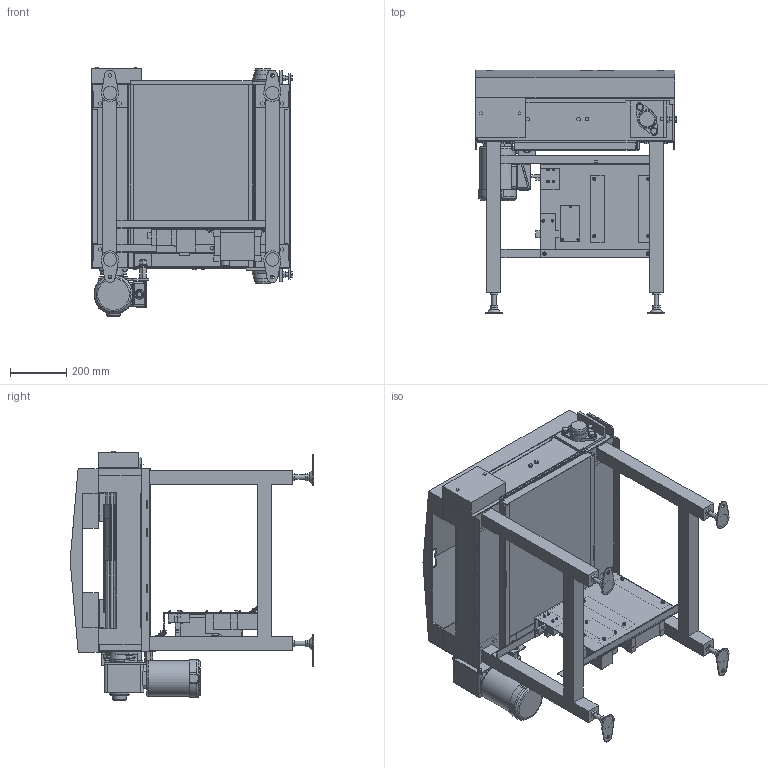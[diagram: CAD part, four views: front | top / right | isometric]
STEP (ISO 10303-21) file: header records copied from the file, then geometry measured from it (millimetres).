
FILE_DESCRIPTION( (''), '2;1');
FILE_NAME ('WEB-SLS-H-340-2-200-200-R-IVH-7.5.stp','2026-08-20T08:43:33',(''),(''),'spGate 21.9.5 (****-****-****-****)','','');
FILE_SCHEMA (('AUTOMOTIVE_DESIGN'));
Length unit declared in the file: millimetre
Products named in the file (81): WEB-SLS-H-340-2-200-200-R-IVH-7.5; TEMP_X_T-prt0; TEMP_X_T-prt1; TEMP_X_T-prt2; TEMP_X_T-prt3; TEMP_X_T-prt4; TEMP_X_T-prt5; TEMP_X_T-prt6; TEMP_X_T-prt7; TEMP_X_T-prt8; TEMP_X_T-prt9; TEMP_X_T-prt10; TEMP_X_T-prt11; TEMP_X_T-prt12; TEMP_X_T-prt13; TEMP_X_T-prt14; TEMP_X_T-prt15; TEMP_X_T-prt16; TEMP_X_T-prt17; TEMP_X_T-prt18; TEMP_X_T-prt19; TEMP_X_T-prt20; TEMP_X_T-prt21; TEMP_X_T-prt22; TEMP_X_T-prt23; TEMP_X_T-prt24; TEMP_X_T-prt25; TEMP_X_T-prt26; TEMP_X_T-prt27; TEMP_X_T-prt28; TEMP_X_T-prt29; TEMP_X_T-prt30; TEMP_X_T-prt31; TEMP_X_T-prt32; TEMP_X_T-prt33; TEMP_X_T-prt34; TEMP_X_T-prt35; TEMP_X_T-prt36; TEMP_X_T-prt37; TEMP_X_T-prt38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
Assembly tree (80 placements, depth 2):
  WEB-SLS-H-340-2-200-200-R-IVH-7.5
    TEMP_X_T-prt0
    TEMP_X_T-prt1
    TEMP_X_T-prt2
    TEMP_X_T-prt3
    TEMP_X_T-prt4
    TEMP_X_T-prt5
    TEMP_X_T-prt6
    TEMP_X_T-prt7
    TEMP_X_T-prt8
    TEMP_X_T-prt9
    TEMP_X_T-prt10
    TEMP_X_T-prt11
    TEMP_X_T-prt12
    TEMP_X_T-prt13
    TEMP_X_T-prt14
    TEMP_X_T-prt15
    TEMP_X_T-prt16
    TEMP_X_T-prt17
    TEMP_X_T-prt18
    TEMP_X_T-prt19
    TEMP_X_T-prt20
    TEMP_X_T-prt21
    TEMP_X_T-prt22
    TEMP_X_T-prt23
    TEMP_X_T-prt24
    TEMP_X_T-prt25
    TEMP_X_T-prt26
    TEMP_X_T-prt27
    TEMP_X_T-prt28
    TEMP_X_T-prt29
    TEMP_X_T-prt30
    TEMP_X_T-prt31
    TEMP_X_T-prt32
    TEMP_X_T-prt33
    TEMP_X_T-prt34
    TEMP_X_T-prt35
    TEMP_X_T-prt36
    TEMP_X_T-prt37
    TEMP_X_T-prt38
    TEMP_X_T-prt39
    TEMP_X_T-prt40
    TEMP_X_T-prt41
    TEMP_X_T-prt42
    TEMP_X_T-prt43
    TEMP_X_T-prt44
    TEMP_X_T-prt45
    TEMP_X_T-prt46
    TEMP_X_T-prt47
    TEMP_X_T-prt48
    TEMP_X_T-prt49
    TEMP_X_T-prt50
    TEMP_X_T-prt51
    TEMP_X_T-prt52
    TEMP_X_T-prt53
    TEMP_X_T-prt54
    TEMP_X_T-prt55
    TEMP_X_T-prt56
    TEMP_X_T-prt57
    TEMP_X_T-prt58
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Bounding box: 716 x 870.6 x 889.5 mm (x, y, z)
Volume: 42544034.9 mm3; surface area: 7849815.9 mm2
Topology: 80 solids, 80 shells, 2474 faces, 6335 edges, 4169 vertices
Faces by surface type: plane 1892, cylinder 463, bspline 115, sphere 4
Full cylindrical faces by diameter (mm): 4 x14, 4.15 x1, 5 x4, 6 x14, 8 x6, 8.376 x4, 8.5 x6, 9 x4, 9.2 x5, 10.5 x4, 11 x4, 11.8 x4, 12 x2, 12.2 x18, 12.5 x21, 13 x8, 14 x8, 15.4 x1, 16 x16, 18 x1, 20 x1, 21 x6, 22.2 x1, 23 x1, 24 x1, 25 x1, 28 x1, 30 x1, 30.5 x1, 34 x1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
Entity records: 130670 total; most frequent: CARTESIAN_POINT 16895, ORIENTED_EDGE 12662, DIRECTION 12340, COLOUR_RGB 8885, PRESENTATION_STYLE_ASSIGNMENT 8885, STYLED_ITEM 8885, EDGE_CURVE 6331, DRAUGHTING_PRE_DEFINED_CURVE_FONT 6331
